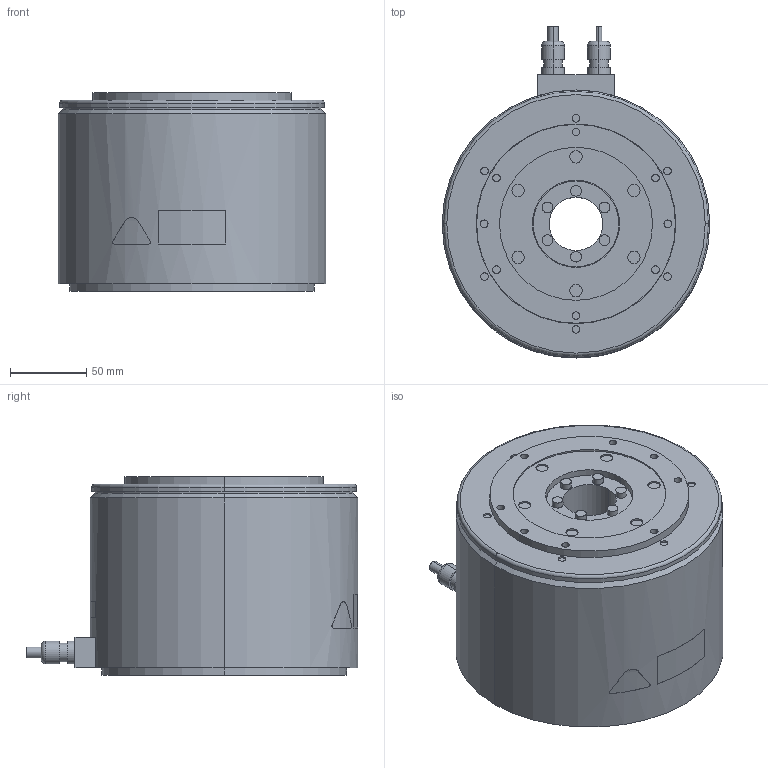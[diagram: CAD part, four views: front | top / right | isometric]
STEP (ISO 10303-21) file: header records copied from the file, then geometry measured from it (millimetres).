
FILE_DESCRIPTION (( 'STEP AP203' ), '1' );
FILE_NAME ('sgm7e_14c_a4_.STEP', '2016-05-30T07:35:09', ( '' ), ( '' ), 'SwSTEP 2.0', 'SolidWorks 2010', '' );
FILE_SCHEMA (( 'CONFIG_CONTROL_DESIGN' ));
Length unit declared in the file: millimetre
Products named in the file (1): sgm7e_14c_a4_
Bounding box: 175 x 217 x 130 mm (x, y, z)
Volume: 2923359.9 mm3; surface area: 140225.6 mm2
Topology: 1 solids, 1 shells, 192 faces, 396 edges, 260 vertices
Faces by surface type: cylinder 110, plane 67, torus 6, bspline 5, cone 4
Entity records: 5754 total; most frequent: CARTESIAN_POINT 1393, DIRECTION 996, ORIENTED_EDGE 792, AXIS2_PLACEMENT_3D 428, EDGE_CURVE 396, VERTEX_POINT 260, EDGE_LOOP 248, CIRCLE 240
